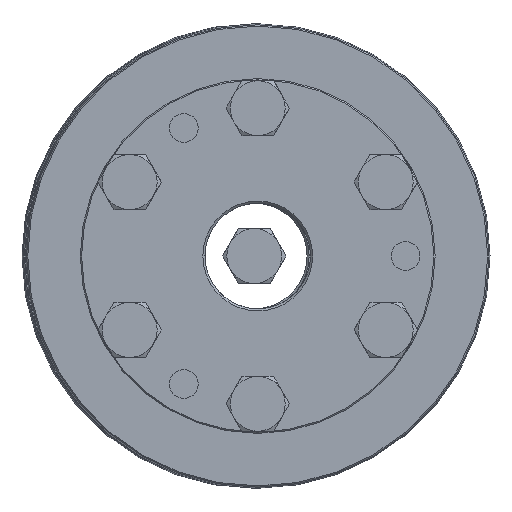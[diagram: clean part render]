
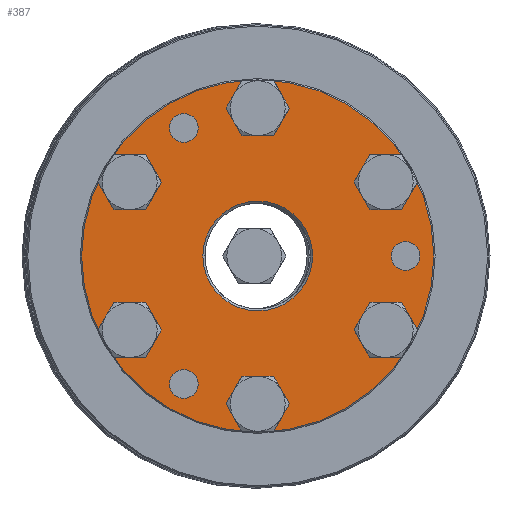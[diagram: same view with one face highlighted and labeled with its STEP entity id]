
A CAD part, left-side view. The second image highlights one B-rep face of the part: STEP entity #387.
In plain terms, the highlighted planar face has unit normal (-1, 0, 0).
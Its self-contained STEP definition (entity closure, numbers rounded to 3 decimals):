
#387 = ADVANCED_FACE( 'NONE', ( #651, #652, #653, #654, #655, #656, #657, #658, #659, #660, #661 ), #662, .F. );
#651 = FACE_OUTER_BOUND( '', #956, .T. );
#652 = FACE_BOUND( '', #957, .T. );
#653 = FACE_BOUND( '', #958, .T. );
#654 = FACE_BOUND( '', #959, .T. );
#655 = FACE_BOUND( '', #960, .T. );
#656 = FACE_BOUND( '', #961, .T. );
#657 = FACE_BOUND( '', #962, .T. );
#658 = FACE_BOUND( '', #963, .T. );
#659 = FACE_BOUND( '', #964, .T. );
#660 = FACE_BOUND( '', #965, .T. );
#661 = FACE_BOUND( '', #966, .T. );
#662 = PLANE( '', #967 );
#956 = EDGE_LOOP( '', ( #1324 ) );
#957 = EDGE_LOOP( '', ( #1325 ) );
#958 = EDGE_LOOP( '', ( #1326 ) );
#959 = EDGE_LOOP( '', ( #1327 ) );
#960 = EDGE_LOOP( '', ( #1328 ) );
#961 = EDGE_LOOP( '', ( #1329 ) );
#962 = EDGE_LOOP( '', ( #1330 ) );
#963 = EDGE_LOOP( '', ( #1331 ) );
#964 = EDGE_LOOP( '', ( #1332 ) );
#965 = EDGE_LOOP( '', ( #1333 ) );
#966 = EDGE_LOOP( '', ( #1334 ) );
#967 = AXIS2_PLACEMENT_3D( '', #1335, #1336, #1337 );
#1324 = ORIENTED_EDGE( '', *, *, #1761, .T. );
#1325 = ORIENTED_EDGE( '', *, *, #1762, .T. );
#1326 = ORIENTED_EDGE( '', *, *, #1763, .F. );
#1327 = ORIENTED_EDGE( '', *, *, #1764, .F. );
#1328 = ORIENTED_EDGE( '', *, *, #1765, .F. );
#1329 = ORIENTED_EDGE( '', *, *, #1766, .F. );
#1330 = ORIENTED_EDGE( '', *, *, #1757, .F. );
#1331 = ORIENTED_EDGE( '', *, *, #1767, .F. );
#1332 = ORIENTED_EDGE( '', *, *, #1768, .F. );
#1333 = ORIENTED_EDGE( '', *, *, #1759, .F. );
#1334 = ORIENTED_EDGE( '', *, *, #1769, .F. );
#1335 = CARTESIAN_POINT( '', ( 0., 12.5, 0. ) );
#1336 = DIRECTION( '', ( 1., 0., 0. ) );
#1337 = DIRECTION( '', ( 0., 1., 0. ) );
#1757 = EDGE_CURVE( 'NONE', #1912, #1912, #1913, .T. );
#1759 = EDGE_CURVE( 'NONE', #1916, #1916, #1917, .T. );
#1761 = EDGE_CURVE( 'NONE', #1920, #1920, #1921, .T. );
#1762 = EDGE_CURVE( 'NONE', #1922, #1922, #1923, .T. );
#1763 = EDGE_CURVE( 'NONE', #1924, #1924, #1925, .T. );
#1764 = EDGE_CURVE( 'NONE', #1926, #1926, #1927, .T. );
#1765 = EDGE_CURVE( 'NONE', #1928, #1928, #1929, .T. );
#1766 = EDGE_CURVE( 'NONE', #1930, #1930, #1931, .T. );
#1767 = EDGE_CURVE( 'NONE', #1932, #1932, #1933, .T. );
#1768 = EDGE_CURVE( 'NONE', #1934, #1934, #1935, .T. );
#1769 = EDGE_CURVE( 'NONE', #1936, #1936, #1937, .T. );
#1912 = VERTEX_POINT( '', #2092 );
#1913 = CIRCLE( '', #2093, 4.25 );
#1916 = VERTEX_POINT( '', #2096 );
#1917 = CIRCLE( '', #2097, 3.4 );
#1920 = VERTEX_POINT( '', #2100 );
#1921 = CIRCLE( '', #2101, 41.7 );
#1922 = VERTEX_POINT( '', #2102 );
#1923 = CIRCLE( '', #2103, 13. );
#1924 = VERTEX_POINT( '', #2104 );
#1925 = CIRCLE( '', #2105, 3.4 );
#1926 = VERTEX_POINT( '', #2106 );
#1927 = CIRCLE( '', #2107, 4.25 );
#1928 = VERTEX_POINT( '', #2108 );
#1929 = CIRCLE( '', #2109, 4.25 );
#1930 = VERTEX_POINT( '', #2110 );
#1931 = CIRCLE( '', #2111, 4.25 );
#1932 = VERTEX_POINT( '', #2112 );
#1933 = CIRCLE( '', #2113, 4.25 );
#1934 = VERTEX_POINT( '', #2114 );
#1935 = CIRCLE( '', #2115, 4.25 );
#1936 = VERTEX_POINT( '', #2116 );
#1937 = CIRCLE( '', #2117, 3.4 );
#2092 = CARTESIAN_POINT( '', ( 0., 0., -30.75 ) );
#2093 = AXIS2_PLACEMENT_3D( '', #2298, #2299, #2300 );
#2096 = CARTESIAN_POINT( '', ( 0., 17.5, 33.711 ) );
#2097 = AXIS2_PLACEMENT_3D( '', #2304, #2305, #2306 );
#2100 = CARTESIAN_POINT( '', ( 0., 0., -41.7 ) );
#2101 = AXIS2_PLACEMENT_3D( '', #2310, #2311, #2312 );
#2102 = CARTESIAN_POINT( '', ( 0., 0., -13. ) );
#2103 = AXIS2_PLACEMENT_3D( '', #2313, #2314, #2315 );
#2104 = CARTESIAN_POINT( '', ( 0., 17.5, -26.911 ) );
#2105 = AXIS2_PLACEMENT_3D( '', #2316, #2317, #2318 );
#2106 = CARTESIAN_POINT( '', ( 0., 0., 39.25 ) );
#2107 = AXIS2_PLACEMENT_3D( '', #2319, #2320, #2321 );
#2108 = CARTESIAN_POINT( '', ( 0., 30.311, 21.75 ) );
#2109 = AXIS2_PLACEMENT_3D( '', #2322, #2323, #2324 );
#2110 = CARTESIAN_POINT( '', ( 0., 30.311, -13.25 ) );
#2111 = AXIS2_PLACEMENT_3D( '', #2325, #2326, #2327 );
#2112 = CARTESIAN_POINT( '', ( 0., -30.311, -13.25 ) );
#2113 = AXIS2_PLACEMENT_3D( '', #2328, #2329, #2330 );
#2114 = CARTESIAN_POINT( '', ( 0., -30.311, 21.75 ) );
#2115 = AXIS2_PLACEMENT_3D( '', #2331, #2332, #2333 );
#2116 = CARTESIAN_POINT( '', ( 0., -35., 3.4 ) );
#2117 = AXIS2_PLACEMENT_3D( '', #2334, #2335, #2336 );
#2298 = CARTESIAN_POINT( '', ( 0., 0., -35. ) );
#2299 = DIRECTION( '', ( -1., 0., 0. ) );
#2300 = DIRECTION( '', ( 0., 0., 1. ) );
#2304 = CARTESIAN_POINT( '', ( 0., 17.5, 30.311 ) );
#2305 = DIRECTION( '', ( -1., 0., 0. ) );
#2306 = DIRECTION( '', ( 0., 0., 1. ) );
#2310 = CARTESIAN_POINT( '', ( 0., 0., 0. ) );
#2311 = DIRECTION( '', ( -1., 0., 0. ) );
#2312 = DIRECTION( '', ( 0., 0., -1. ) );
#2313 = CARTESIAN_POINT( '', ( 0., 0., 0. ) );
#2314 = DIRECTION( '', ( 1., 0., 0. ) );
#2315 = DIRECTION( '', ( 0., 0., -1. ) );
#2316 = CARTESIAN_POINT( '', ( 0., 17.5, -30.311 ) );
#2317 = DIRECTION( '', ( -1., 0., 0. ) );
#2318 = DIRECTION( '', ( 0., 0., 1. ) );
#2319 = CARTESIAN_POINT( '', ( 0., 0., 35. ) );
#2320 = DIRECTION( '', ( -1., 0., 0. ) );
#2321 = DIRECTION( '', ( 0., 0., 1. ) );
#2322 = CARTESIAN_POINT( '', ( 0., 30.311, 17.5 ) );
#2323 = DIRECTION( '', ( -1., 0., 0. ) );
#2324 = DIRECTION( '', ( 0., 0., 1. ) );
#2325 = CARTESIAN_POINT( '', ( 0., 30.311, -17.5 ) );
#2326 = DIRECTION( '', ( -1., 0., 0. ) );
#2327 = DIRECTION( '', ( 0., 0., 1. ) );
#2328 = CARTESIAN_POINT( '', ( 0., -30.311, -17.5 ) );
#2329 = DIRECTION( '', ( -1., 0., 0. ) );
#2330 = DIRECTION( '', ( 0., 0., 1. ) );
#2331 = CARTESIAN_POINT( '', ( 0., -30.311, 17.5 ) );
#2332 = DIRECTION( '', ( -1., 0., 0. ) );
#2333 = DIRECTION( '', ( 0., 0., 1. ) );
#2334 = CARTESIAN_POINT( '', ( 0., -35., 0. ) );
#2335 = DIRECTION( '', ( -1., 0., 0. ) );
#2336 = DIRECTION( '', ( 0., 0., 1. ) );
